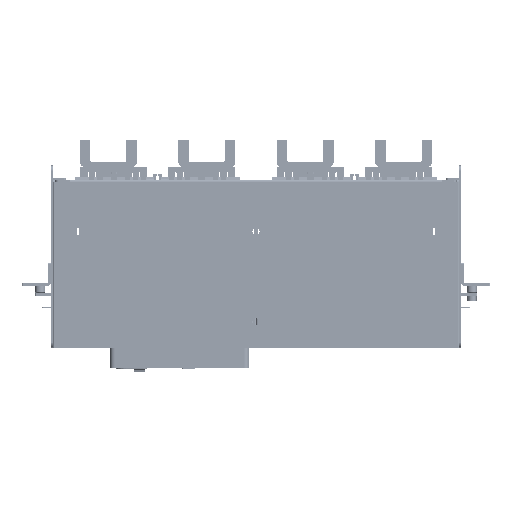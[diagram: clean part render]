
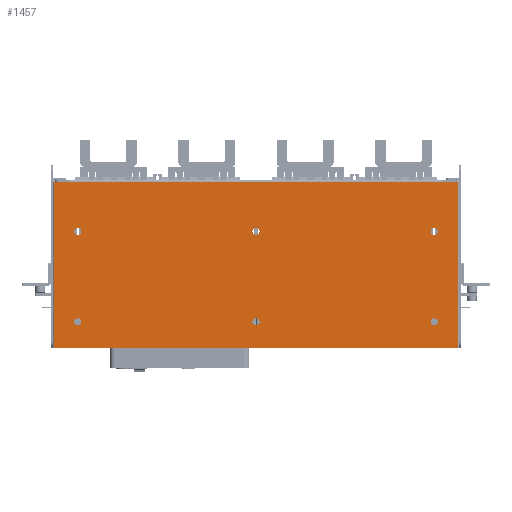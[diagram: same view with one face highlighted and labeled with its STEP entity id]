
A CAD part, front view. The second image highlights one B-rep face of the part: STEP entity #1457.
In plain terms, the highlighted planar face has unit normal (0, -1, 0).
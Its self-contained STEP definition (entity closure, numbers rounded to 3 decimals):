
#55=DIRECTION('',(1.,0.,0.));
#56=VECTOR('',#55,780.2);
#57=CARTESIAN_POINT('',(-587.6,-3.2,-160.875));
#58=LINE('',#57,#56);
#193=DIRECTION('',(0.,0.,1.));
#194=VECTOR('',#193,321.738);
#195=CARTESIAN_POINT('',(192.6,-3.2,-160.875));
#196=LINE('',#195,#194);
#201=DIRECTION('',(1.,0.,-0.001));
#202=VECTOR('',#201,30.6);
#203=CARTESIAN_POINT('',(-587.6,-3.2,160.863));
#204=LINE('',#203,#202);
#205=DIRECTION('',(1.,0.,0.001));
#206=VECTOR('',#205,30.6);
#207=CARTESIAN_POINT('',(162.,-3.186,160.826));
#208=LINE('',#207,#206);
#209=CARTESIAN_POINT('',(147.5,-3.2,64.125));
#210=DIRECTION('',(0.,-1.,0.));
#211=DIRECTION('',(-1.,0.,0.));
#212=AXIS2_PLACEMENT_3D('',#209,#210,#211);
#214=CARTESIAN_POINT('',(147.5,-3.2,64.125));
#215=DIRECTION('',(0.,-1.,0.));
#216=DIRECTION('',(1.,0.,0.));
#217=AXIS2_PLACEMENT_3D('',#214,#215,#216);
#219=CARTESIAN_POINT('',(-542.5,-3.2,64.125));
#220=DIRECTION('',(0.,-1.,0.));
#221=DIRECTION('',(-1.,0.,0.));
#222=AXIS2_PLACEMENT_3D('',#219,#220,#221);
#224=CARTESIAN_POINT('',(-542.5,-3.2,64.125));
#225=DIRECTION('',(0.,-1.,0.));
#226=DIRECTION('',(1.,0.,0.));
#227=AXIS2_PLACEMENT_3D('',#224,#225,#226);
#229=CARTESIAN_POINT('',(-197.5,-3.2,64.125));
#230=DIRECTION('',(0.,-1.,0.));
#231=DIRECTION('',(-1.,0.,0.));
#232=AXIS2_PLACEMENT_3D('',#229,#230,#231);
#234=CARTESIAN_POINT('',(-197.5,-3.2,64.125));
#235=DIRECTION('',(0.,-1.,0.));
#236=DIRECTION('',(1.,0.,0.));
#237=AXIS2_PLACEMENT_3D('',#234,#235,#236);
#239=CARTESIAN_POINT('',(147.5,-3.2,-110.875));
#240=DIRECTION('',(0.,-1.,0.));
#241=DIRECTION('',(-1.,0.,0.));
#242=AXIS2_PLACEMENT_3D('',#239,#240,#241);
#244=CARTESIAN_POINT('',(147.5,-3.2,-110.875));
#245=DIRECTION('',(0.,-1.,0.));
#246=DIRECTION('',(1.,0.,0.));
#247=AXIS2_PLACEMENT_3D('',#244,#245,#246);
#249=CARTESIAN_POINT('',(-197.5,-3.2,-110.875));
#250=DIRECTION('',(0.,-1.,0.));
#251=DIRECTION('',(-1.,0.,0.));
#252=AXIS2_PLACEMENT_3D('',#249,#250,#251);
#254=CARTESIAN_POINT('',(-197.5,-3.2,-110.875));
#255=DIRECTION('',(0.,-1.,0.));
#256=DIRECTION('',(1.,0.,0.));
#257=AXIS2_PLACEMENT_3D('',#254,#255,#256);
#259=CARTESIAN_POINT('',(-542.5,-3.2,-110.875));
#260=DIRECTION('',(0.,-1.,0.));
#261=DIRECTION('',(-1.,0.,0.));
#262=AXIS2_PLACEMENT_3D('',#259,#260,#261);
#264=CARTESIAN_POINT('',(-542.5,-3.2,-110.875));
#265=DIRECTION('',(0.,-1.,0.));
#266=DIRECTION('',(1.,0.,0.));
#267=AXIS2_PLACEMENT_3D('',#264,#265,#266);
#273=DIRECTION('',(0.,0.,-1.));
#274=VECTOR('',#273,321.738);
#275=CARTESIAN_POINT('',(-587.6,-3.2,160.863));
#276=LINE('',#275,#274);
#727=DIRECTION('',(-1.,0.,0.));
#728=VECTOR('',#727,719.);
#729=CARTESIAN_POINT('',(162.,-3.186,160.826));
#730=LINE('',#729,#728);
#968=CARTESIAN_POINT('',(-587.6,-3.2,-160.875));
#969=VERTEX_POINT('',#968);
#970=CARTESIAN_POINT('',(192.6,-3.2,-160.875));
#971=VERTEX_POINT('',#970);
#1022=CARTESIAN_POINT('',(192.6,-3.2,160.863));
#1023=VERTEX_POINT('',#1022);
#1024=CARTESIAN_POINT('',(-587.6,-3.2,160.863));
#1025=VERTEX_POINT('',#1024);
#1026=CARTESIAN_POINT('',(-557.,-3.186,160.826));
#1027=VERTEX_POINT('',#1026);
#1028=CARTESIAN_POINT('',(162.,-3.186,160.826));
#1029=VERTEX_POINT('',#1028);
#1030=CARTESIAN_POINT('',(140.5,-3.2,64.125));
#1031=CARTESIAN_POINT('',(154.5,-3.2,64.125));
#1032=VERTEX_POINT('',#1030);
#1033=VERTEX_POINT('',#1031);
#1034=CARTESIAN_POINT('',(-549.5,-3.2,64.125));
#1035=CARTESIAN_POINT('',(-535.5,-3.2,64.125));
#1036=VERTEX_POINT('',#1034);
#1037=VERTEX_POINT('',#1035);
#1038=CARTESIAN_POINT('',(-204.5,-3.2,64.125));
#1039=CARTESIAN_POINT('',(-190.5,-3.2,64.125));
#1040=VERTEX_POINT('',#1038);
#1041=VERTEX_POINT('',#1039);
#1042=CARTESIAN_POINT('',(140.5,-3.2,-110.875));
#1043=CARTESIAN_POINT('',(154.5,-3.2,-110.875));
#1044=VERTEX_POINT('',#1042);
#1045=VERTEX_POINT('',#1043);
#1046=CARTESIAN_POINT('',(-204.5,-3.2,-110.875));
#1047=CARTESIAN_POINT('',(-190.5,-3.2,-110.875));
#1048=VERTEX_POINT('',#1046);
#1049=VERTEX_POINT('',#1047);
#1050=CARTESIAN_POINT('',(-549.5,-3.2,-110.875));
#1051=CARTESIAN_POINT('',(-535.5,-3.2,-110.875));
#1052=VERTEX_POINT('',#1050);
#1053=VERTEX_POINT('',#1051);
#1404=CARTESIAN_POINT('',(-591.3,-3.2,-160.875));
#1405=DIRECTION('',(0.,-1.,0.));
#1406=DIRECTION('',(1.,0.,0.));
#1407=AXIS2_PLACEMENT_3D('',#1404,#1405,#1406);
#1408=PLANE('',#1407);
#1409=ORIENTED_EDGE('',*,*,#1396,.F.);
#1410=ORIENTED_EDGE('',*,*,#1249,.F.);
#1412=ORIENTED_EDGE('',*,*,#1411,.F.);
#1414=ORIENTED_EDGE('',*,*,#1413,.T.);
#1416=ORIENTED_EDGE('',*,*,#1415,.F.);
#1418=ORIENTED_EDGE('',*,*,#1417,.T.);
#1419=EDGE_LOOP('',(#1409,#1410,#1412,#1414,#1416,#1418));
#1420=FACE_OUTER_BOUND('',#1419,.F.);
#1422=ORIENTED_EDGE('',*,*,#1421,.T.);
#1424=ORIENTED_EDGE('',*,*,#1423,.T.);
#1425=EDGE_LOOP('',(#1422,#1424));
#1426=FACE_BOUND('',#1425,.F.);
#1428=ORIENTED_EDGE('',*,*,#1427,.T.);
#1430=ORIENTED_EDGE('',*,*,#1429,.T.);
#1431=EDGE_LOOP('',(#1428,#1430));
#1432=FACE_BOUND('',#1431,.F.);
#1434=ORIENTED_EDGE('',*,*,#1433,.T.);
#1436=ORIENTED_EDGE('',*,*,#1435,.T.);
#1437=EDGE_LOOP('',(#1434,#1436));
#1438=FACE_BOUND('',#1437,.F.);
#1440=ORIENTED_EDGE('',*,*,#1439,.T.);
#1442=ORIENTED_EDGE('',*,*,#1441,.T.);
#1443=EDGE_LOOP('',(#1440,#1442));
#1444=FACE_BOUND('',#1443,.F.);
#1446=ORIENTED_EDGE('',*,*,#1445,.T.);
#1448=ORIENTED_EDGE('',*,*,#1447,.T.);
#1449=EDGE_LOOP('',(#1446,#1448));
#1450=FACE_BOUND('',#1449,.F.);
#1452=ORIENTED_EDGE('',*,*,#1451,.T.);
#1454=ORIENTED_EDGE('',*,*,#1453,.T.);
#1455=EDGE_LOOP('',(#1452,#1454));
#1456=FACE_BOUND('',#1455,.F.);
#1457=ADVANCED_FACE('',(#1420,#1426,#1432,#1438,#1444,#1450,#1456),#1408,.T.);
#213=CIRCLE('',#212,7.);
#218=CIRCLE('',#217,7.);
#223=CIRCLE('',#222,7.);
#228=CIRCLE('',#227,7.);
#233=CIRCLE('',#232,7.);
#238=CIRCLE('',#237,7.);
#243=CIRCLE('',#242,7.);
#248=CIRCLE('',#247,7.);
#253=CIRCLE('',#252,7.);
#258=CIRCLE('',#257,7.);
#263=CIRCLE('',#262,7.);
#268=CIRCLE('',#267,7.);
#1249=EDGE_CURVE('',#969,#971,#58,.T.);
#1396=EDGE_CURVE('',#971,#1023,#196,.T.);
#1411=EDGE_CURVE('',#1025,#969,#276,.T.);
#1413=EDGE_CURVE('',#1025,#1027,#204,.T.);
#1415=EDGE_CURVE('',#1029,#1027,#730,.T.);
#1417=EDGE_CURVE('',#1029,#1023,#208,.T.);
#1421=EDGE_CURVE('',#1032,#1033,#213,.T.);
#1423=EDGE_CURVE('',#1033,#1032,#218,.T.);
#1427=EDGE_CURVE('',#1036,#1037,#223,.T.);
#1429=EDGE_CURVE('',#1037,#1036,#228,.T.);
#1433=EDGE_CURVE('',#1040,#1041,#233,.T.);
#1435=EDGE_CURVE('',#1041,#1040,#238,.T.);
#1439=EDGE_CURVE('',#1044,#1045,#243,.T.);
#1441=EDGE_CURVE('',#1045,#1044,#248,.T.);
#1445=EDGE_CURVE('',#1048,#1049,#253,.T.);
#1447=EDGE_CURVE('',#1049,#1048,#258,.T.);
#1451=EDGE_CURVE('',#1052,#1053,#263,.T.);
#1453=EDGE_CURVE('',#1053,#1052,#268,.T.);
